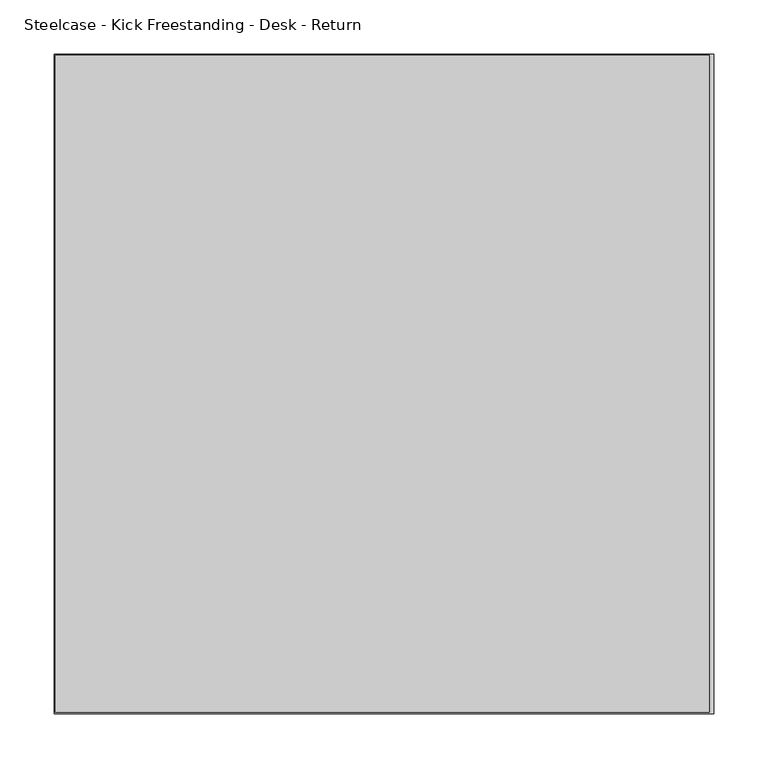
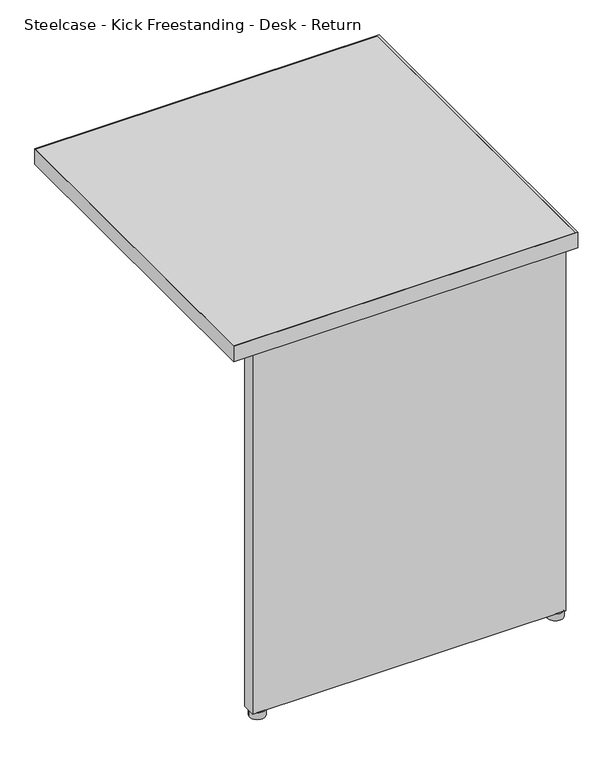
"""IFC4 building model written with IfcOpenShell, lengths in millimetres: furniture geometry, Steelcase - Kick Freestanding - Desk - Return : 24D x 24W - Left."""

from ifc_helpers import new_model, si_unit, point, frame, frame_2d, origin, origin_with_axes, place, context, project, spatial, polyline, circle_curve, trimmed, segment, composite_curve, outline, extrude, source, transform, mapped, element, save


def steelcase_kick_freestanding_desk_return_b67f2b0f(model_context):
    return source(origin(), model_context, "Body", "SweptSolid", [
        extrude(outline(composite_curve([segment(trimmed(circle_curve(frame_2d((2220.2474425, -1131.0145152)), 13.97), [point((2206.2774425, -1131.0145152))], [point((2234.2174425, -1131.0145152))], False, "CARTESIAN"), True, "CONTINUOUS"), segment(trimmed(circle_curve(frame_2d((2220.2474425, -1131.0145152)), 13.97), [point((2234.2174425, -1131.0145152))], [point((2206.2774425, -1131.0145152))], False, "CARTESIAN"), True, "CONTINUOUS")], self_intersect=False)), origin_with_axes(), (0.0, 0.0, 1.0), 12.7),
        extrude(outline(composite_curve([segment(trimmed(circle_curve(frame_2d((2748.0594425, -1131.0145152)), 13.97), [point((2734.0894425, -1131.0145152))], [point((2762.0294425, -1131.0145152))], False, "CARTESIAN"), True, "CONTINUOUS"), segment(trimmed(circle_curve(frame_2d((2748.0594425, -1131.0145152)), 13.97), [point((2762.0294425, -1131.0145152))], [point((2734.0894425, -1131.0145152))], False, "CARTESIAN"), True, "CONTINUOUS")], self_intersect=False)), origin_with_axes(), (0.0, 0.0, 1.0), 12.7),
        extrude(outline(polyline([(2205.0074425, -1118.4669152), (2328.2736437, -1118.4669152), (2328.2736437, -1140.8951136), (2427.9940467, -1140.8951136), (2427.9940467, -1118.4669041), (2536.7314502, -1118.4669041), (2536.7314502, -1140.8951136), (2636.4518532, -1140.8951136), (2636.4518532, -1118.4669041), (2759.4894376, -1118.4669041), (2759.4894376, -1142.9525098), (2205.0074425, -1142.9525098), (2205.0074425, -1118.4669152)])), frame((0.0, 0.0, 12.7), z_axis=(0.0, 0.0, 1.0), x_axis=(1.0, 0.0, 0.0)), (0.0, 0.0, 1.0), 682.244),
        extrude(outline(polyline([(2769.2176592, -548.0845152), (2769.2176592, -1155.1445152), (2164.8500425, -1155.1445152), (2164.8500425, -548.0845152), (2769.2176592, -548.0845152)])), frame((0.0, 0.0, 694.944), z_axis=(0.0, 0.0, 1.0), x_axis=(1.0, 0.0, 0.0)), (0.0, 0.0, 1.0), 28.956),
        extrude(outline(polyline([(2773.4594425, -546.8145152), (2773.4594425, -1156.4145152), (2163.8594425, -1156.4145152), (2163.8594425, -546.8145152), (2773.4594425, -546.8145152)]), holes=[polyline([(2769.2176592, -548.0845152), (2164.8500425, -548.0845152), (2164.8500425, -1155.1445152), (2769.2176592, -1155.1445152), (2769.2176592, -548.0845152)])]), frame((0.0, 0.0, 694.944), z_axis=(0.0, 0.0, 1.0), x_axis=(1.0, 0.0, 0.0)), (0.0, 0.0, 1.0), 28.956),
    ])


if __name__ == "__main__":
    model = new_model("IFC4")
    model_context = context("Model", 3, world=origin())
    ifc_project = project(units=[si_unit("LENGTHUNIT", "METRE", prefix="MILLI")], contexts=[model_context])
    site = spatial("IfcSite", under=ifc_project)
    building = spatial("IfcBuilding", under=site)
    placement = place(None, origin())
    steelcase_kick_freestanding_desk_return_shape = steelcase_kick_freestanding_desk_return_b67f2b0f(model_context)
    element("IfcFurniture", 1, ObjectType="Steelcase - Kick Freestanding - Desk - Return : 24D x 24W - Left", at=placement, inside=building, context=model_context, shape_type="MappedRepresentation", body=[
        mapped(steelcase_kick_freestanding_desk_return_shape, transform((0.0, 0.0, 0.0), x_axis=(1.0, 0.0, 0.0), y_axis=(0.0, 1.0, 0.0), z_axis=(0.0, 0.0, 1.0))),
    ])
    save(model, "model.ifc")
